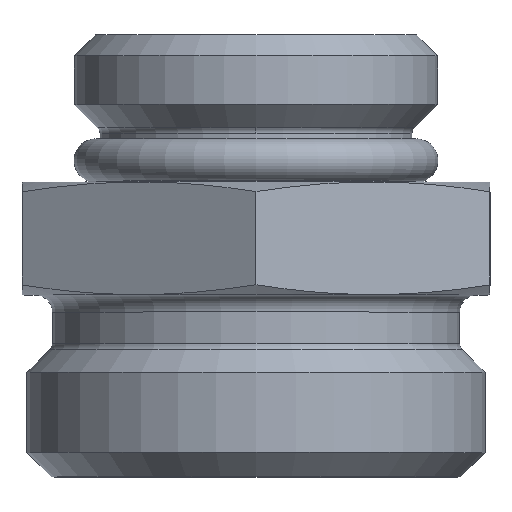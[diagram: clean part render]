
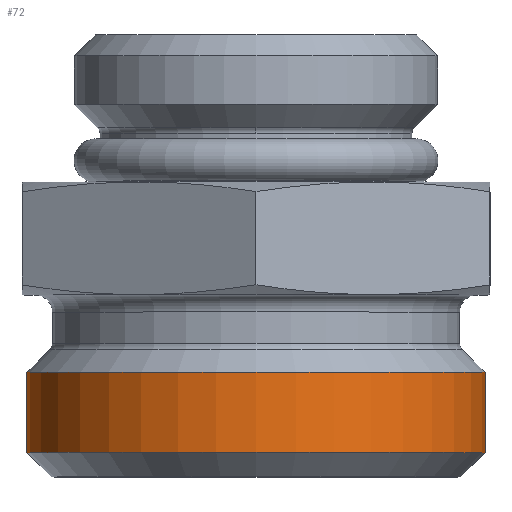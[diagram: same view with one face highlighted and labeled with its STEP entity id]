
A CAD part, top view. The second image highlights one B-rep face of the part: STEP entity #72.
In plain terms, the highlighted cylindrical face has radius 13.22 mm (diameter 26.441 mm), a full revolution.
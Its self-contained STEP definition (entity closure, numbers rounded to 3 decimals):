
#72=ADVANCED_FACE('',(#310,#312),#314,.T.);
#310=FACE_BOUND('',#311,.T.);
#311=EDGE_LOOP('',(#461,#462));
#312=FACE_OUTER_BOUND('',#313,.T.);
#313=EDGE_LOOP('',(#463));
#314=CYLINDRICAL_SURFACE('',#315,13.221);
#315=AXIS2_PLACEMENT_3D('',#316,#317,#318);
#316=CARTESIAN_POINT('',(0.,0.,0.));
#317=DIRECTION('',(0.,-1.,0.));
#318=DIRECTION('',(1.,0.,0.));
#461=ORIENTED_EDGE('',*,*,#524,.T.);
#462=ORIENTED_EDGE('',*,*,#523,.T.);
#463=ORIENTED_EDGE('',*,*,#526,.F.);
#523=EDGE_CURVE('',#616,#617,#618,.T.);
#524=EDGE_CURVE('',#617,#616,#619,.T.);
#526=EDGE_CURVE('',#622,#622,#623,.T.);
#616=VERTEX_POINT('',#1177);
#617=VERTEX_POINT('',#1178);
#618=CIRCLE('',#1179,13.221);
#619=CIRCLE('',#1183,13.221);
#622=VERTEX_POINT('',#1192);
#623=CIRCLE('',#1193,13.221);
#1177=CARTESIAN_POINT('',(-13.221,-4.47,0.));
#1178=CARTESIAN_POINT('',(13.221,-4.47,0.));
#1179=AXIS2_PLACEMENT_3D('',#1180,#1181,#1182);
#1180=CARTESIAN_POINT('',(0.,-4.47,0.));
#1181=DIRECTION('',(0.,-1.,0.));
#1182=DIRECTION('',(-1.,0.,0.));
#1183=AXIS2_PLACEMENT_3D('',#1184,#1185,#1186);
#1184=CARTESIAN_POINT('',(0.,-4.47,0.));
#1185=DIRECTION('',(0.,-1.,0.));
#1186=DIRECTION('',(1.,0.,0.));
#1192=CARTESIAN_POINT('',(13.221,-9.1,0.));
#1193=AXIS2_PLACEMENT_3D('',#1194,#1195,#1196);
#1194=CARTESIAN_POINT('',(0.,-9.1,0.));
#1195=DIRECTION('',(0.,-1.,0.));
#1196=DIRECTION('',(1.,0.,0.));
